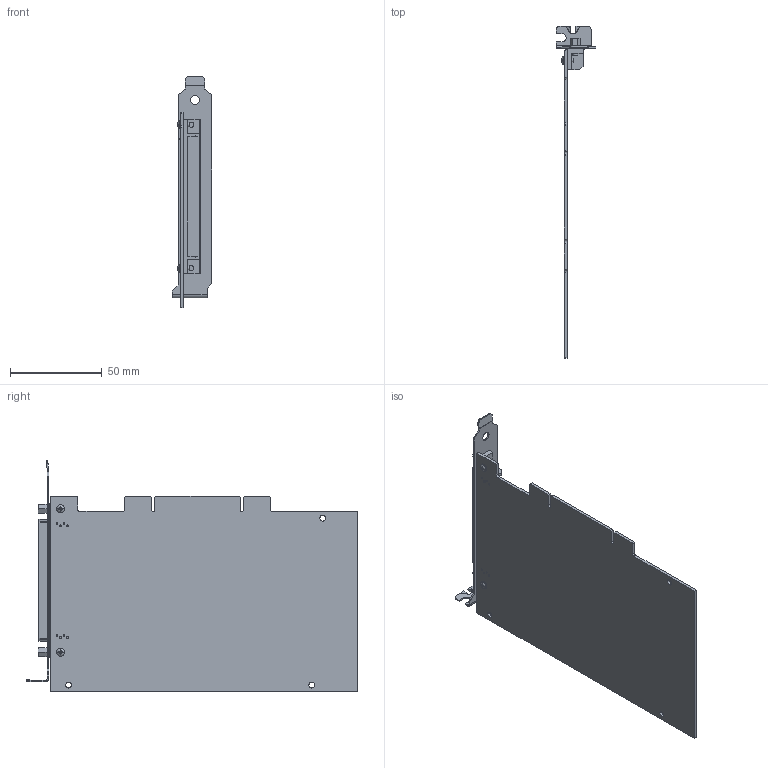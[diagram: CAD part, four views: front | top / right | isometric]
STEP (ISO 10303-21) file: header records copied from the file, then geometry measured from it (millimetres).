
FILE_DESCRIPTION((''),'2;1');
FILE_NAME('CU_PCI-100POS_SCSI','2011-08-19T',('dkendric'),(''),'PRO/ENGINEER BY PARAMETRIC TECHNOLOGY CORPORATION, 2010230','PRO/ENGINEER BY PARAMETRIC TECHNOLOGY CORPORATION, 2010230','');
FILE_SCHEMA(('CONFIG_CONTROL_DESIGN'));
Length unit declared in the file: inch
Products named in the file (1): CU_PCI-100POS_SCSI
Bounding box: 21.59 x 180.91 x 126.21 mm (x, y, z)
Volume: 34700.2 mm3; surface area: 41847.1 mm2
Topology: 1 solids, 1 shells, 281 faces, 709 edges, 408 vertices
Faces by surface type: plane 153, cylinder 68, bspline 44, cone 8, torus 4, sphere 4
Entity records: 8935 total; most frequent: CARTESIAN_POINT 2532, ORIENTED_EDGE 1330, DIRECTION 1239, EDGE_CURVE 665, VERTEX_POINT 446, VECTOR 413, LINE 413, AXIS2_PLACEMENT_3D 413
